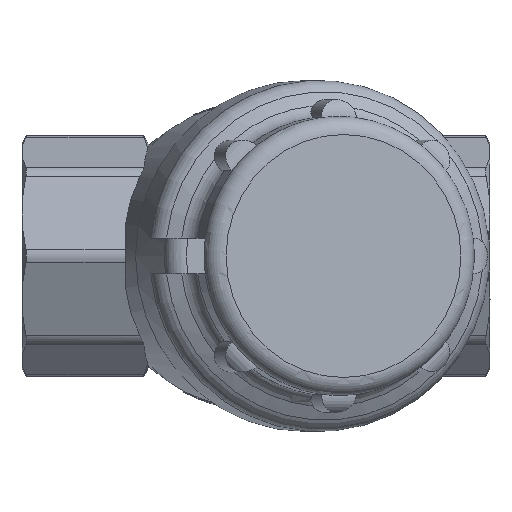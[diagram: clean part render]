
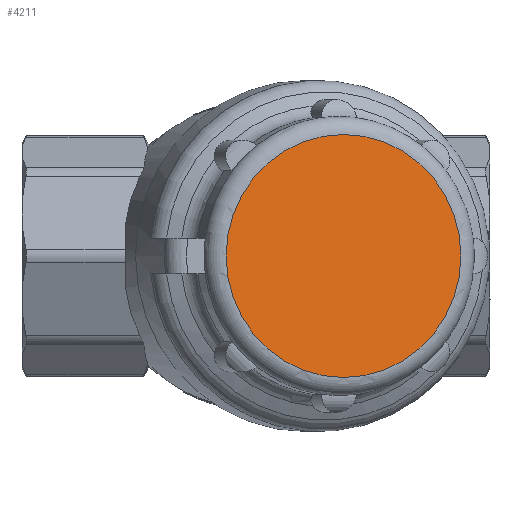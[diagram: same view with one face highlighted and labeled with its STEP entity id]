
A CAD part, front view. The second image highlights one B-rep face of the part: STEP entity #4211.
In plain terms, the highlighted planar face has unit normal (0.259, -0.966, 0).
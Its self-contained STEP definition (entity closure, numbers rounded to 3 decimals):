
#1038=FACE_OUTER_BOUND('',#1290,.T.);
#1290=EDGE_LOOP('',(#3506,#3507));
#1490=CIRCLE('',#4630,13.5);
#1491=CIRCLE('',#4631,13.5);
#1845=VERTEX_POINT('',#11021);
#1846=VERTEX_POINT('',#11022);
#2431=EDGE_CURVE('',#1845,#1846,#1490,.T.);
#2432=EDGE_CURVE('',#1846,#1845,#1491,.T.);
#3506=ORIENTED_EDGE('',*,*,#2431,.T.);
#3507=ORIENTED_EDGE('',*,*,#2432,.T.);
#4026=PLANE('',#4633);
#4211=ADVANCED_FACE('',(#1038),#4026,.T.);
#4630=AXIS2_PLACEMENT_3D('',#11023,#5540,#5541);
#4631=AXIS2_PLACEMENT_3D('',#11024,#5542,#5543);
#4633=AXIS2_PLACEMENT_3D('',#11026,#5546,#5547);
#5540=DIRECTION('center_axis',(0.259,-0.966,0.));
#5541=DIRECTION('ref_axis',(0.966,0.259,0.));
#5542=DIRECTION('center_axis',(0.259,-0.966,0.));
#5543=DIRECTION('ref_axis',(0.966,0.259,0.));
#5546=DIRECTION('center_axis',(0.259,-0.966,0.));
#5547=DIRECTION('ref_axis',(0.,0.,-1.));
#11021=CARTESIAN_POINT('',(-2.817,-41.648,0.));
#11022=CARTESIAN_POINT('',(10.223,-38.154,13.5));
#11023=CARTESIAN_POINT('Origin',(10.223,-38.154,0.));
#11024=CARTESIAN_POINT('Origin',(10.223,-38.154,0.));
#11026=CARTESIAN_POINT('Origin',(10.223,-38.154,0.));
